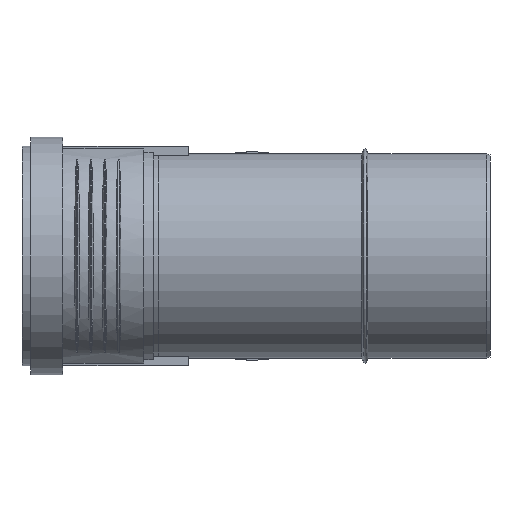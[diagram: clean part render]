
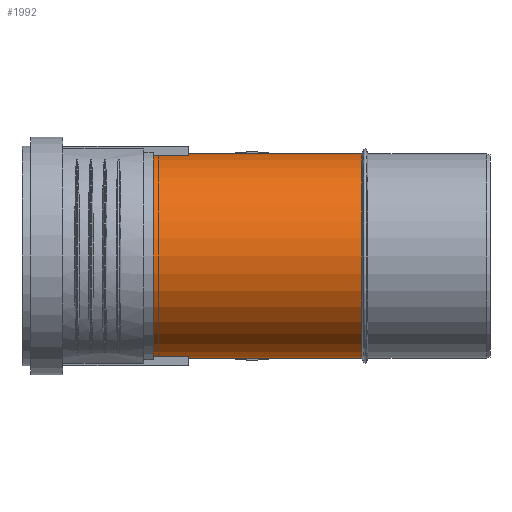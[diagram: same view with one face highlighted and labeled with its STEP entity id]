
A CAD part, left-side view. The second image highlights one B-rep face of the part: STEP entity #1992.
In plain terms, the highlighted cylindrical face has radius 62.6 mm (diameter 125.2 mm), a full revolution.
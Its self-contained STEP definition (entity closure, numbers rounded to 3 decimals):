
#262=CYLINDRICAL_SURFACE($,#2133,62.6);
#428=FACE_BOUND($,#719,.T.);
#429=FACE_BOUND($,#720,.T.);
#490=B_SPLINE_CURVE_WITH_KNOTS($,3,(#2962,#2963,#2964,#2965,#2966,#2967,
#2968,#2969,#2970,#2971,#2972,#2973,#2974,#2975,#2976,#2977,#2978,#2979,
#2980,#2981,#2982,#2983,#2984,#2985,#2986,#2987,#2988,#2989,#2990,#2991,
#2992,#2993,#2994,#2995,#2996,#2997,#2998,#2999,#3000,#3001,#3002,#3003,
#3004,#3005,#3006,#3007,#3008,#3009,#3010,#3011,#3012,#3013,#3014,#3015,
#3016,#3017,#3018,#3019,#3020,#3021,#3022,#3023,#3024,#3025,#3026,#3027),
 .UNSPECIFIED.,.T.,.F.,(4,2,2,2,2,2,2,2,2,2,2,2,2,2,2,2,2,2,2,2,2,2,2,2,
2,2,2,2,2,2,2,2,4),(0.,1.205,2.41,3.615,
4.82,5.93,7.04,8.15,9.26,
10.37,11.48,12.59,13.7,14.905,
16.11,17.315,18.52,19.68,20.84,
22.,23.16,24.271,25.381,26.492,
27.602,28.712,29.823,30.933,32.044,
33.204,34.364,35.523,36.683),
 .UNSPECIFIED.);
#595=FACE_OUTER_BOUND($,#718,.T.);
#718=EDGE_LOOP($,(#1466));
#719=EDGE_LOOP($,(#1467));
#720=EDGE_LOOP($,(#1468));
#884=CIRCLE($,#2121,62.6);
#889=CIRCLE($,#2130,62.6);
#981=VERTEX_POINT($,#2943);
#986=VERTEX_POINT($,#2957);
#987=VERTEX_POINT($,#2961);
#1183=EDGE_CURVE($,#981,#981,#884,.T.);
#1188=EDGE_CURVE($,#986,#986,#889,.T.);
#1189=EDGE_CURVE($,#987,#987,#490,.T.);
#1466=ORIENTED_EDGE($,*,*,#1183,.T.);
#1467=ORIENTED_EDGE($,*,*,#1188,.T.);
#1468=ORIENTED_EDGE($,*,*,#1189,.T.);
#1992=ADVANCED_FACE($,(#595,#428,#429),#262,.T.);
#2121=AXIS2_PLACEMENT_3D($,#2944,#2358,#2359);
#2130=AXIS2_PLACEMENT_3D($,#2958,#2376,#2377);
#2133=AXIS2_PLACEMENT_3D($,#3028,#2382,#2383);
#2358=DIRECTION('center_axis',(0.,1.,0.));
#2359=DIRECTION('ref_axis',(1.,0.,0.));
#2376=DIRECTION('center_axis',(0.,-1.,0.));
#2377=DIRECTION('ref_axis',(1.,0.,0.));
#2382=DIRECTION('center_axis',(0.,1.,0.));
#2383=DIRECTION('ref_axis',(1.,0.,0.));
#2943=CARTESIAN_POINT('',(-62.6,78.5,0.));
#2944=CARTESIAN_POINT('Origin',(0.,78.5,0.));
#2957=CARTESIAN_POINT('',(62.6,207.06,0.));
#2958=CARTESIAN_POINT('Origin',(0.,207.06,0.));
#2961=CARTESIAN_POINT('',(29.711,141.457,55.1));
#2962=CARTESIAN_POINT('Ctrl Pts',(29.711,141.457,55.1));
#2963=CARTESIAN_POINT('Ctrl Pts',(29.711,145.474,55.1));
#2964=CARTESIAN_POINT('Ctrl Pts',(30.532,149.299,54.67));
#2965=CARTESIAN_POINT('Ctrl Pts',(33.122,156.644,53.141));
#2966=CARTESIAN_POINT('Ctrl Pts',(34.882,160.167,52.037));
#2967=CARTESIAN_POINT('Ctrl Pts',(38.768,166.921,49.21));
#2968=CARTESIAN_POINT('Ctrl Pts',(40.894,170.145,47.485));
#2969=CARTESIAN_POINT('Ctrl Pts',(45.114,176.171,43.496));
#2970=CARTESIAN_POINT('Ctrl Pts',(47.209,178.972,41.23));
#2971=CARTESIAN_POINT('Ctrl Pts',(50.931,183.813,36.511));
#2972=CARTESIAN_POINT('Ctrl Pts',(52.713,186.059,33.926));
#2973=CARTESIAN_POINT('Ctrl Pts',(55.991,190.12,28.19));
#2974=CARTESIAN_POINT('Ctrl Pts',(57.486,191.934,25.039));
#2975=CARTESIAN_POINT('Ctrl Pts',(59.963,194.917,18.331));
#2976=CARTESIAN_POINT('Ctrl Pts',(60.947,196.088,14.766));
#2977=CARTESIAN_POINT('Ctrl Pts',(62.266,197.652,7.451));
#2978=CARTESIAN_POINT('Ctrl Pts',(62.6,198.046,3.7));
#2979=CARTESIAN_POINT('Ctrl Pts',(62.6,198.046,-3.7));
#2980=CARTESIAN_POINT('Ctrl Pts',(62.266,197.652,-7.451));
#2981=CARTESIAN_POINT('Ctrl Pts',(60.947,196.088,-14.766));
#2982=CARTESIAN_POINT('Ctrl Pts',(59.963,194.917,-18.331));
#2983=CARTESIAN_POINT('Ctrl Pts',(57.486,191.934,-25.039));
#2984=CARTESIAN_POINT('Ctrl Pts',(55.991,190.12,-28.19));
#2985=CARTESIAN_POINT('Ctrl Pts',(52.713,186.059,-33.926));
#2986=CARTESIAN_POINT('Ctrl Pts',(50.931,183.813,-36.511));
#2987=CARTESIAN_POINT('Ctrl Pts',(47.209,178.972,-41.23));
#2988=CARTESIAN_POINT('Ctrl Pts',(45.114,176.171,-43.496));
#2989=CARTESIAN_POINT('Ctrl Pts',(40.894,170.145,-47.485));
#2990=CARTESIAN_POINT('Ctrl Pts',(38.768,166.921,-49.21));
#2991=CARTESIAN_POINT('Ctrl Pts',(34.882,160.167,-52.037));
#2992=CARTESIAN_POINT('Ctrl Pts',(33.122,156.644,-53.141));
#2993=CARTESIAN_POINT('Ctrl Pts',(30.532,149.299,-54.67));
#2994=CARTESIAN_POINT('Ctrl Pts',(29.711,145.474,-55.1));
#2995=CARTESIAN_POINT('Ctrl Pts',(29.711,137.591,-55.1));
#2996=CARTESIAN_POINT('Ctrl Pts',(30.48,133.902,-54.698));
#2997=CARTESIAN_POINT('Ctrl Pts',(32.991,126.861,-53.221));
#2998=CARTESIAN_POINT('Ctrl Pts',(34.718,123.503,-52.144));
#2999=CARTESIAN_POINT('Ctrl Pts',(38.553,117.108,-49.376));
#3000=CARTESIAN_POINT('Ctrl Pts',(40.662,114.075,-47.682));
#3001=CARTESIAN_POINT('Ctrl Pts',(44.851,108.427,-43.765));
#3002=CARTESIAN_POINT('Ctrl Pts',(46.932,105.815,-41.541));
#3003=CARTESIAN_POINT('Ctrl Pts',(50.697,101.232,-36.841));
#3004=CARTESIAN_POINT('Ctrl Pts',(52.53,99.078,-34.215));
#3005=CARTESIAN_POINT('Ctrl Pts',(55.89,95.204,-28.396));
#3006=CARTESIAN_POINT('Ctrl Pts',(57.416,93.483,-25.204));
#3007=CARTESIAN_POINT('Ctrl Pts',(59.937,90.667,-18.422));
#3008=CARTESIAN_POINT('Ctrl Pts',(60.934,89.569,-14.826));
#3009=CARTESIAN_POINT('Ctrl Pts',(62.266,88.105,-7.465));
#3010=CARTESIAN_POINT('Ctrl Pts',(62.6,87.741,-3.701));
#3011=CARTESIAN_POINT('Ctrl Pts',(62.6,87.741,3.701));
#3012=CARTESIAN_POINT('Ctrl Pts',(62.266,88.105,7.465));
#3013=CARTESIAN_POINT('Ctrl Pts',(60.934,89.569,14.826));
#3014=CARTESIAN_POINT('Ctrl Pts',(59.937,90.667,18.422));
#3015=CARTESIAN_POINT('Ctrl Pts',(57.416,93.483,25.204));
#3016=CARTESIAN_POINT('Ctrl Pts',(55.89,95.204,28.396));
#3017=CARTESIAN_POINT('Ctrl Pts',(52.53,99.078,34.215));
#3018=CARTESIAN_POINT('Ctrl Pts',(50.697,101.232,36.841));
#3019=CARTESIAN_POINT('Ctrl Pts',(46.932,105.815,41.541));
#3020=CARTESIAN_POINT('Ctrl Pts',(44.851,108.427,43.765));
#3021=CARTESIAN_POINT('Ctrl Pts',(40.662,114.075,47.682));
#3022=CARTESIAN_POINT('Ctrl Pts',(38.553,117.108,49.376));
#3023=CARTESIAN_POINT('Ctrl Pts',(34.718,123.503,52.144));
#3024=CARTESIAN_POINT('Ctrl Pts',(32.991,126.861,53.221));
#3025=CARTESIAN_POINT('Ctrl Pts',(30.48,133.902,54.698));
#3026=CARTESIAN_POINT('Ctrl Pts',(29.711,137.591,55.1));
#3027=CARTESIAN_POINT('Ctrl Pts',(29.711,141.457,55.1));
#3028=CARTESIAN_POINT('Origin',(0.,0.,0.));
